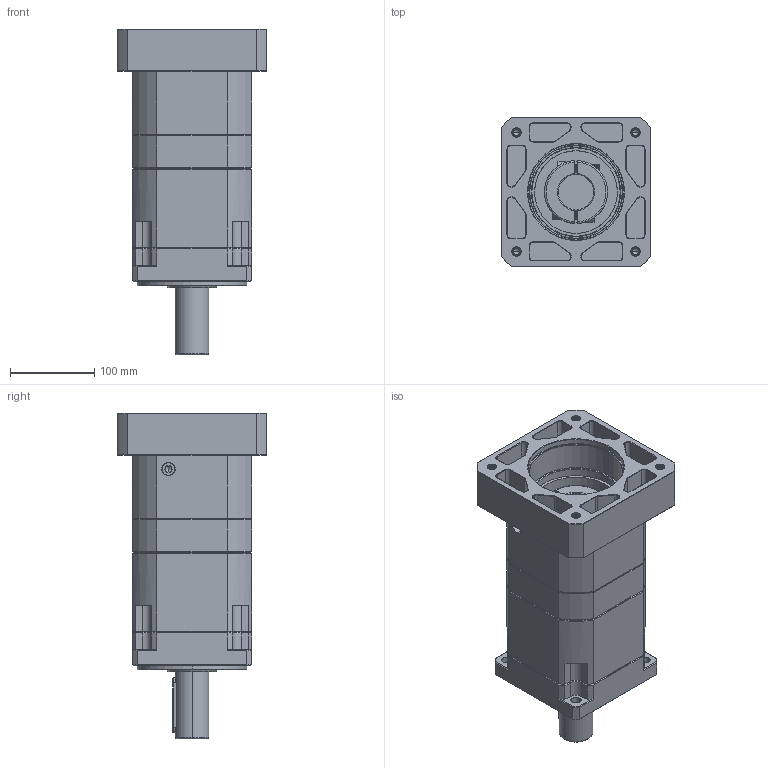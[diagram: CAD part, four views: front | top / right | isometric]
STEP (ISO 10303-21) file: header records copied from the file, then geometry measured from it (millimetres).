
FILE_DESCRIPTION (( 'STEP AP214' ), '1' );
FILE_NAME ('ZB142A-D40-L3-P2-42-114.3-200-M12.step', '2023-09-01T11:45:04', ( '' ), ( '' ), 'SwSTEP 2.0', 'SolidWorks 2016', '' );
FILE_SCHEMA (( 'AUTOMOTIVE_DESIGN' ));
Length unit declared in the file: millimetre
Products named in the file (1): ZB142A-D40-L3-P2-42-114.3-200-M12
Bounding box: 178 x 178 x 387.2 mm (x, y, z)
Volume: 5231830.9 mm3; surface area: 412938.3 mm2
Topology: 6 solids, 6 shells, 2476 faces, 6466 edges, 4105 vertices
Faces by surface type: plane 1202, cylinder 453, bspline 409, cone 390, torus 22
Entity records: 133597 total; most frequent: CARTESIAN_POINT 48877, ORIENTED_EDGE 12872, DIRECTION 10393, EDGE_CURVE 6436, LINE 4147, VECTOR 4147, VERTEX_POINT 4105, AXIS2_PLACEMENT_3D 3123
